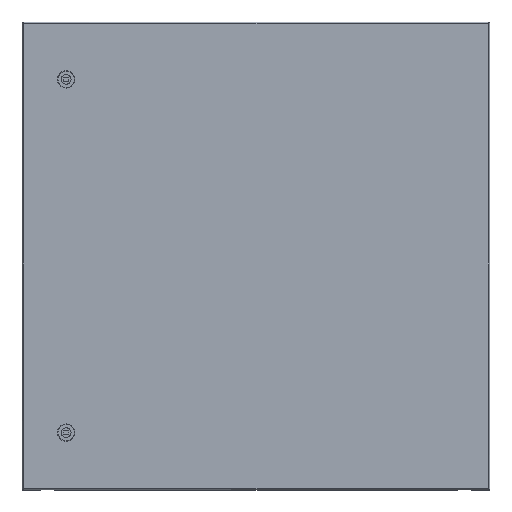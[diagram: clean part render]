
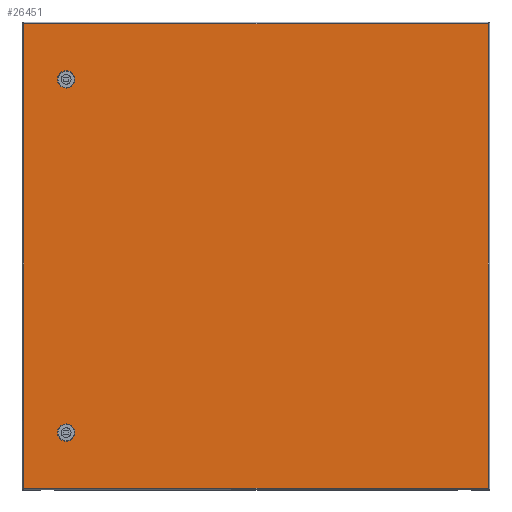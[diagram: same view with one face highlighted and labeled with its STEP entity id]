
A CAD part, top view. The second image highlights one B-rep face of the part: STEP entity #26451.
In plain terms, the highlighted planar face has unit normal (0, 0, 1).
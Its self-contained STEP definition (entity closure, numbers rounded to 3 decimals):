
#25561=CARTESIAN_POINT(' ',(2.8,0.8,0.));
#25566=DIRECTION(' ',(1.,0.,0.));
#25571=VECTOR(' ',#25566,1.);
#25576=LINE('',#25561,#25571);
#25581=CARTESIAN_POINT(' ',(2.8,0.8,0.));
#25582=VERTEX_POINT(' ',#25581);
#25586=CARTESIAN_POINT(' ',(791.2,0.8,0.));
#25587=VERTEX_POINT(' ',#25586);
#25591=EDGE_CURVE(' ',#25582,#25587,#25576,.T.);
#26311=DIRECTION(' ',(-0.,-0.,1.));
#26316=CARTESIAN_POINT(' ',(791.2,0.8,0.));
#26321=DIRECTION(' ',(0.,1.,0.));
#26326=AXIS2_PLACEMENT_3D(' ',#26316,#26311,#26321);
#26331=PLANE('NONE',#26326);
#26336=ORIENTED_EDGE(' ',*,*,#25591,.T.);
#26341=CARTESIAN_POINT(' ',(791.2,790.2,0.));
#26346=DIRECTION(' ',(0.,-1.,0.));
#26351=VECTOR(' ',#26346,1.);
#26356=LINE('',#26341,#26351);
#26361=CARTESIAN_POINT(' ',(791.2,790.2,0.));
#26362=VERTEX_POINT(' ',#26361);
#26366=EDGE_CURVE(' ',#26362,#25587,#26356,.T.);
#26371=ORIENTED_EDGE(' ',*,*,#26366,.F.);
#26376=CARTESIAN_POINT(' ',(791.2,790.2,0.));
#26381=DIRECTION(' ',(-1.,0.,0.));
#26386=VECTOR(' ',#26381,1.);
#26391=LINE('',#26376,#26386);
#26396=CARTESIAN_POINT(' ',(2.8,790.2,0.));
#26397=VERTEX_POINT(' ',#26396);
#26401=EDGE_CURVE(' ',#26362,#26397,#26391,.T.);
#26406=ORIENTED_EDGE(' ',*,*,#26401,.T.);
#26411=CARTESIAN_POINT(' ',(2.8,790.2,0.));
#26416=DIRECTION(' ',(0.,-1.,0.));
#26421=VECTOR(' ',#26416,1.);
#26426=LINE('',#26411,#26421);
#26431=EDGE_CURVE(' ',#26397,#25582,#26426,.T.);
#26436=ORIENTED_EDGE(' ',*,*,#26431,.T.);
#26441=EDGE_LOOP(' ',(#26336,#26371,#26406,#26436));
#26446=FACE_OUTER_BOUND(' ',#26441,.T.);
#26451=ADVANCED_FACE('NONE',(#26446),#26331,.T.);
